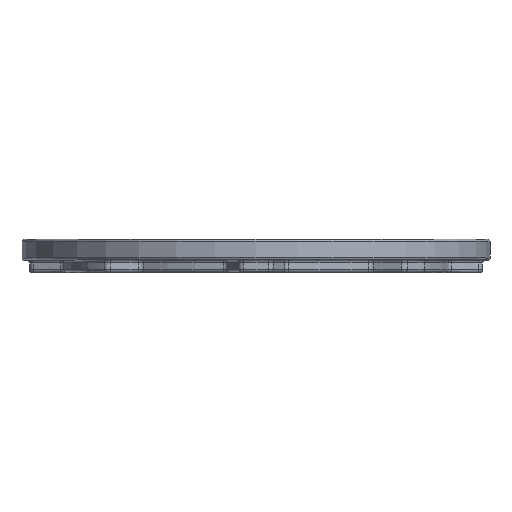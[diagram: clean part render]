
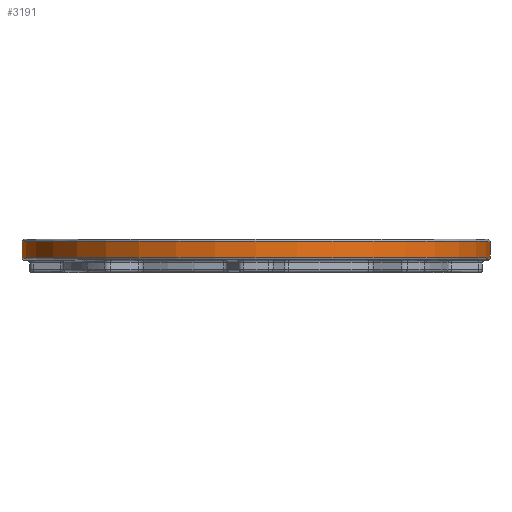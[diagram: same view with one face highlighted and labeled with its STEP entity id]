
A CAD part, top view. The second image highlights one B-rep face of the part: STEP entity #3191.
In plain terms, the highlighted cylindrical face has radius 170 mm (diameter 340 mm), a full revolution.
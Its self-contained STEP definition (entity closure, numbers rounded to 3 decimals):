
#455=ORIENTED_EDGE('',*,*,#1417,.T.);
#456=ORIENTED_EDGE('',*,*,#1418,.T.);
#1417=EDGE_CURVE('',#1905,#1905,#2201,.F.);
#1418=EDGE_CURVE('',#1906,#1906,#2202,.T.);
#1905=VERTEX_POINT('',#5377);
#1906=VERTEX_POINT('',#5379);
#2201=CIRCLE('',#3460,170.);
#2202=CIRCLE('',#3461,170.);
#2575=EDGE_LOOP('',(#455));
#2576=EDGE_LOOP('',(#456));
#2849=FACE_BOUND('',#2575,.T.);
#2850=FACE_BOUND('',#2576,.T.);
#3087=CYLINDRICAL_SURFACE('',#3459,170.);
#3191=ADVANCED_FACE('',(#2849,#2850),#3087,.T.);
#3459=AXIS2_PLACEMENT_3D('',#5375,#4098,#4099);
#3460=AXIS2_PLACEMENT_3D('',#5376,#4100,#4101);
#3461=AXIS2_PLACEMENT_3D('',#5378,#4102,#4103);
#4098=DIRECTION('',(0.,-1.,0.));
#4099=DIRECTION('',(0.,0.,-1.));
#4100=DIRECTION('',(0.,1.,0.));
#4101=DIRECTION('',(0.,0.,1.));
#4102=DIRECTION('',(0.,1.,0.));
#4103=DIRECTION('',(0.,0.,1.));
#5375=CARTESIAN_POINT('',(0.,24.,0.));
#5376=CARTESIAN_POINT('',(0.,22.5,0.));
#5377=CARTESIAN_POINT('',(0.,22.5,170.));
#5378=CARTESIAN_POINT('',(0.,10.5,0.));
#5379=CARTESIAN_POINT('',(0.,10.5,170.));
